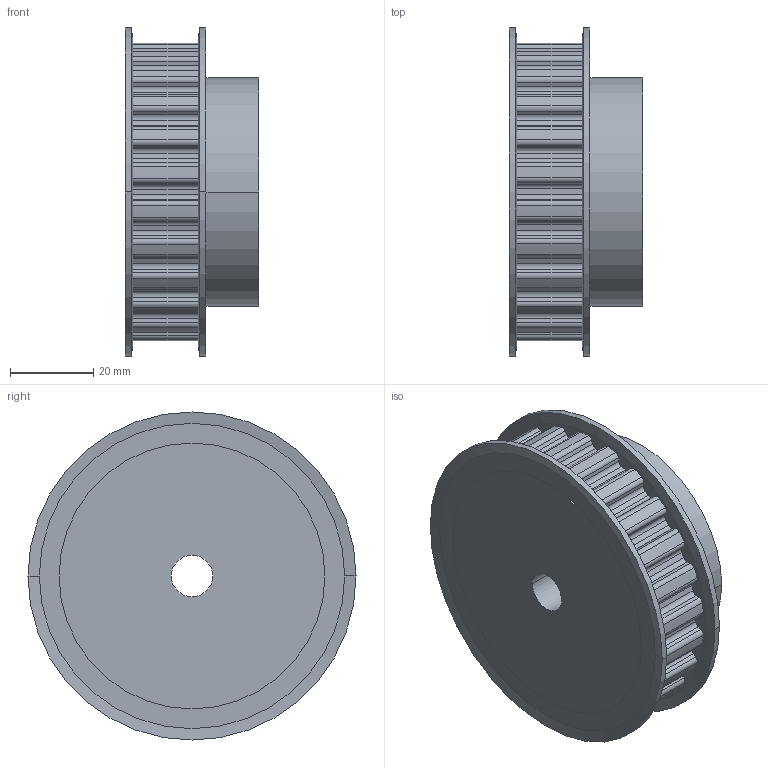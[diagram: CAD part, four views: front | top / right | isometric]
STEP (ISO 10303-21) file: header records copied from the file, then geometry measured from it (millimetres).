
FILE_DESCRIPTION( ( '' ), '1' );
FILE_NAME( 'C:/Users/Stangenbergd/Documents/CAD_Step/1/18212400.stp', '2021-10-19T10:35:21', ( '' ), ( '' ), ' ', ' ', ' ' );
FILE_SCHEMA( ( 'CONFIG_CONTROL_DESIGN' ) );
Length unit declared in the file: millimetre
Products named in the file (1): 1
Bounding box: 32.24 x 79 x 79 mm (x, y, z)
Volume: 103952 mm3; surface area: 20458.2 mm2
Topology: 1 solids, 1 shells, 219 faces, 628 edges, 416 vertices
Faces by surface type: cylinder 132, plane 79, cone 8
Entity records: 7318 total; most frequent: DIRECTION 1340, CARTESIAN_POINT 1264, ORIENTED_EDGE 1256, EDGE_CURVE 628, AXIS2_PLACEMENT_3D 492, VERTEX_POINT 416, LINE 356, VECTOR 356
